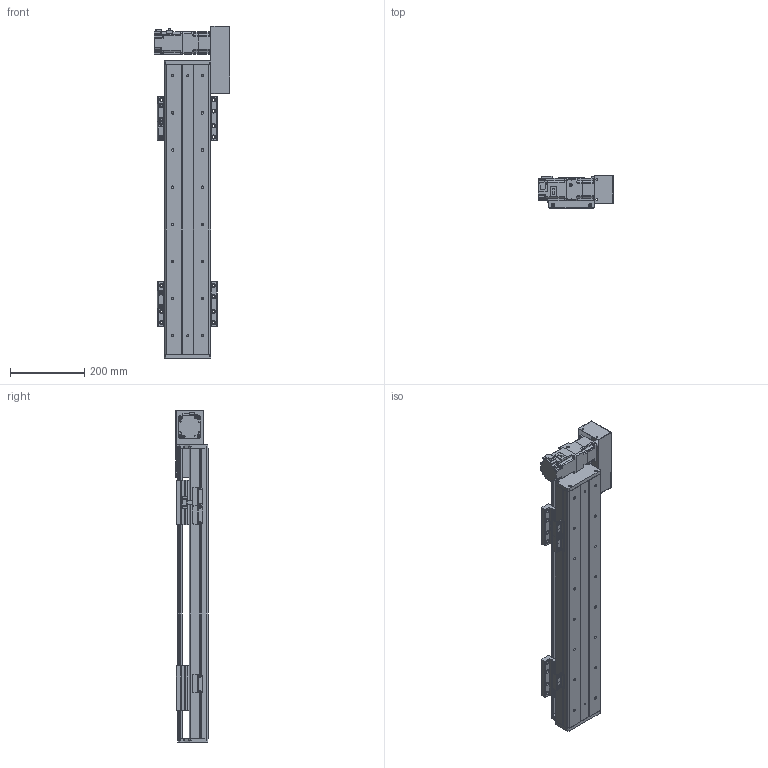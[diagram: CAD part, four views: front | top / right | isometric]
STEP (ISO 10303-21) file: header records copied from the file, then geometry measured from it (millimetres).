
FILE_DESCRIPTION(/* description */ (''),/* implementation_level */ '2;1');
FILE_NAME(/* name */ 'C:\Users\PC\Desktop\3D도면\STEP\STEP\DSB125-R2G-W0500-L.stp',/* time_stamp */ '2018-06-13T14:10:22+09:00',/* author */ ('PC'),/* organization */ (''),/* preprocessor_version */ 'ST-DEVELOPER v16.5',/* originating_system */ 'Autodesk Inventor 2017',/* authorisation */ '');
FILE_SCHEMA (('AUTOMOTIVE_DESIGN { 1 0 10303 214 3 1 1 }'));
Length unit declared in the file: millimetre
Products named in the file (12): DSB125-L2G-W0500-R_MIR; DSB125-BASE_MIR; DSB125-FRONT COVER_MIR; DSB125-REAR COVER_MIR; DSB125-UP COVER_MIR; DSB125-TABLE(MSB15S)_MIR; hg-kr23__MIR; ab0601-p0401200402_MIR; 13-BELT COVER_MIR; DSR125-SENSOR DOG_MIR; pm-y65_step_MIR; SENSOR BRACKET(EE-SX674A)_MIR
Assembly tree (16 placements, depth 2):
  DSB125-L2G-W0500-R_MIR
    DSB125-BASE_MIR
    DSB125-FRONT COVER_MIR
    DSB125-REAR COVER_MIR
    DSB125-UP COVER_MIR
    DSB125-TABLE(MSB15S)_MIR  x2
    hg-kr23__MIR
    ab0601-p0401200402_MIR
    13-BELT COVER_MIR
    DSR125-SENSOR DOG_MIR
    pm-y65_step_MIR  x3
    SENSOR BRACKET(EE-SX674A)_MIR  x3
Bounding box: 202.1 x 88 x 894 mm (x, y, z)
Volume: 3416428.7 mm3; surface area: 986977.2 mm2
Topology: 17 solids, 17 shells, 1643 faces, 4460 edges, 2942 vertices
Faces by surface type: plane 903, cylinder 622, cone 106, sphere 8, torus 4
Full cylindrical faces by diameter (mm): 2.459 x20, 3.242 x16, 3.5 x6, 4 x1, 4.134 x16, 4.2 x4, 4.3 x1, 4.5 x50, 4.917 x20, 5 x22, 5.3 x1, 5.5 x4, 5.6 x8, 5.8 x4, 5.9 x8, 6 x4, 6.6 x22, 6.647 x16, 7.5 x32, 8.5 x8, 8.7 x1, 11 x22, 14 x1, 16 x2, 17 x1, 20 x1, 47 x1, 50 x3
Entity records: 35633 total; most frequent: CARTESIAN_POINT 6435, DIRECTION 6042, ORIENTED_EDGE 5442, EDGE_CURVE 2721, AXIS2_PLACEMENT_3D 2209, VERTEX_POINT 1930, EDGE_LOOP 1637, LINE 1624
